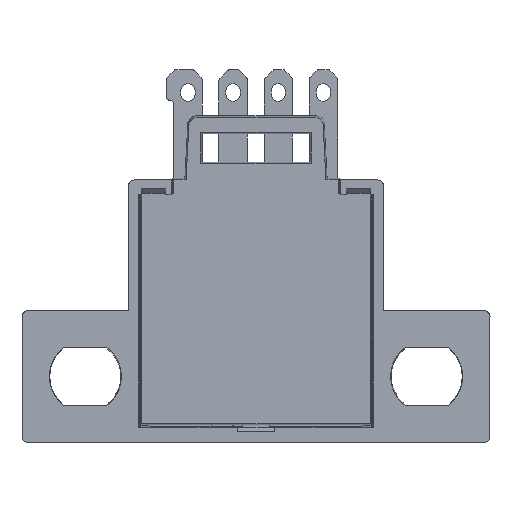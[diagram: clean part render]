
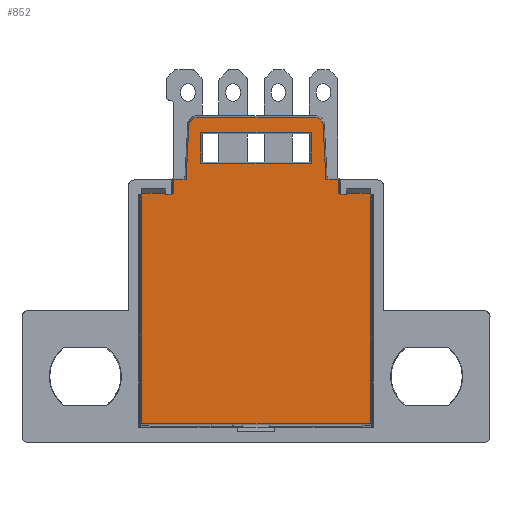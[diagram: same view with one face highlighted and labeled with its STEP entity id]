
A CAD part, front view. The second image highlights one B-rep face of the part: STEP entity #852.
In plain terms, the highlighted planar face has unit normal (0, -1, 0).
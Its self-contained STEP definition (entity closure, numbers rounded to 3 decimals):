
#197=FACE_BOUND('',#2468,.T.);
#198=FACE_BOUND('',#2469,.T.);
#414=ELLIPSE('',#11717,0.504,0.5);
#415=ELLIPSE('',#11719,0.504,0.5);
#852=ADVANCED_FACE('',(#197,#198),#1354,.F.);
#1354=PLANE('',#11728);
#2468=EDGE_LOOP('',(#4220,#4221,#4222,#4223));
#2469=EDGE_LOOP('',(#4224,#4225,#4226,#4227,#4228,#4229,#4230,#4231,#4232,
#4233,#4234,#4235,#4236,#4237));
#4220=ORIENTED_EDGE('',*,*,#7776,.F.);
#4221=ORIENTED_EDGE('',*,*,#7779,.F.);
#4222=ORIENTED_EDGE('',*,*,#7781,.F.);
#4223=ORIENTED_EDGE('',*,*,#7782,.F.);
#4224=ORIENTED_EDGE('',*,*,#7770,.F.);
#4225=ORIENTED_EDGE('',*,*,#7785,.F.);
#4226=ORIENTED_EDGE('',*,*,#7787,.F.);
#4227=ORIENTED_EDGE('',*,*,#7788,.F.);
#4228=ORIENTED_EDGE('',*,*,#7789,.F.);
#4229=ORIENTED_EDGE('',*,*,#7790,.F.);
#4230=ORIENTED_EDGE('',*,*,#7791,.F.);
#4231=ORIENTED_EDGE('',*,*,#7792,.F.);
#4232=ORIENTED_EDGE('',*,*,#7793,.F.);
#4233=ORIENTED_EDGE('',*,*,#7794,.F.);
#4234=ORIENTED_EDGE('',*,*,#7795,.F.);
#4235=ORIENTED_EDGE('',*,*,#7783,.F.);
#4236=ORIENTED_EDGE('',*,*,#7773,.F.);
#4237=ORIENTED_EDGE('',*,*,#7774,.F.);
#6484=VERTEX_POINT('',#16443);
#6485=VERTEX_POINT('',#16445);
#6486=VERTEX_POINT('',#16449);
#6487=VERTEX_POINT('',#16451);
#6488=VERTEX_POINT('',#16457);
#6489=VERTEX_POINT('',#16459);
#6490=VERTEX_POINT('',#16463);
#6491=VERTEX_POINT('',#16467);
#6492=VERTEX_POINT('',#16473);
#6493=VERTEX_POINT('',#16477);
#6494=VERTEX_POINT('',#16481);
#6495=VERTEX_POINT('',#16483);
#6496=VERTEX_POINT('',#16485);
#6497=VERTEX_POINT('',#16487);
#6498=VERTEX_POINT('',#16489);
#6499=VERTEX_POINT('',#16491);
#6500=VERTEX_POINT('',#16493);
#6501=VERTEX_POINT('',#16495);
#7770=EDGE_CURVE('',#6485,#6484,#414,.T.);
#7773=EDGE_CURVE('',#6487,#6486,#415,.T.);
#7774=EDGE_CURVE('',#6484,#6487,#9229,.T.);
#7776=EDGE_CURVE('',#6488,#6489,#9231,.T.);
#7779=EDGE_CURVE('',#6490,#6488,#9234,.T.);
#7781=EDGE_CURVE('',#6491,#6490,#9236,.T.);
#7782=EDGE_CURVE('',#6489,#6491,#9237,.T.);
#7783=EDGE_CURVE('',#6486,#6492,#9238,.T.);
#7785=EDGE_CURVE('',#6493,#6485,#9240,.T.);
#7787=EDGE_CURVE('',#6494,#6493,#9242,.T.);
#7788=EDGE_CURVE('',#6495,#6494,#9243,.T.);
#7789=EDGE_CURVE('',#6496,#6495,#9244,.T.);
#7790=EDGE_CURVE('',#6497,#6496,#9245,.T.);
#7791=EDGE_CURVE('',#6498,#6497,#9246,.T.);
#7792=EDGE_CURVE('',#6499,#6498,#9247,.T.);
#7793=EDGE_CURVE('',#6500,#6499,#9248,.T.);
#7794=EDGE_CURVE('',#6501,#6500,#9249,.T.);
#7795=EDGE_CURVE('',#6492,#6501,#9250,.T.);
#9229=LINE('',#16454,#10562);
#9231=LINE('',#16458,#10564);
#9234=LINE('',#16464,#10567);
#9236=LINE('',#16468,#10569);
#9237=LINE('',#16470,#10570);
#9238=LINE('',#16472,#10571);
#9240=LINE('',#16476,#10573);
#9242=LINE('',#16480,#10575);
#9243=LINE('',#16482,#10576);
#9244=LINE('',#16484,#10577);
#9245=LINE('',#16486,#10578);
#9246=LINE('',#16488,#10579);
#9247=LINE('',#16490,#10580);
#9248=LINE('',#16492,#10581);
#9249=LINE('',#16494,#10582);
#9250=LINE('',#16496,#10583);
#10562=VECTOR('',#13445,1.);
#10564=VECTOR('',#13449,1.);
#10567=VECTOR('',#13454,1.);
#10569=VECTOR('',#13458,1.);
#10570=VECTOR('',#13461,1.);
#10571=VECTOR('',#13464,1.);
#10573=VECTOR('',#13468,1.);
#10575=VECTOR('',#13472,1.);
#10576=VECTOR('',#13473,1.);
#10577=VECTOR('',#13474,1.);
#10578=VECTOR('',#13475,1.);
#10579=VECTOR('',#13476,1.);
#10580=VECTOR('',#13477,1.);
#10581=VECTOR('',#13478,1.);
#10582=VECTOR('',#13479,1.);
#10583=VECTOR('',#13480,1.);
#11717=AXIS2_PLACEMENT_3D('',#16446,#13435,#13436);
#11719=AXIS2_PLACEMENT_3D('',#16452,#13441,#13442);
#11728=AXIS2_PLACEMENT_3D('',#16497,#13481,#13482);
#13435=DIRECTION('',(0.,1.,0.));
#13436=DIRECTION('',(-0.688,0.,0.725));
#13441=DIRECTION('',(0.,1.,0.));
#13442=DIRECTION('',(0.688,0.,0.725));
#13445=DIRECTION('',(1.,0.,0.));
#13449=DIRECTION('',(1.,0.,0.));
#13454=DIRECTION('',(0.,0.,-1.));
#13458=DIRECTION('',(-1.,0.,0.));
#13461=DIRECTION('',(0.,0.,1.));
#13464=DIRECTION('',(0.052,0.,-0.999));
#13468=DIRECTION('',(0.052,0.,0.999));
#13472=DIRECTION('',(1.,0.,0.));
#13473=DIRECTION('',(0.,0.,1.));
#13474=DIRECTION('',(1.,0.,0.));
#13475=DIRECTION('',(0.,0.,1.));
#13476=DIRECTION('',(-1.,0.,0.));
#13477=DIRECTION('',(0.,0.,-1.));
#13478=DIRECTION('',(1.,0.,0.));
#13479=DIRECTION('',(0.,0.,-1.));
#13480=DIRECTION('',(1.,0.,0.));
#13481=DIRECTION('',(0.,1.,0.));
#13482=DIRECTION('',(-1.,0.,0.));
#16443=CARTESIAN_POINT('',(102.722,-16.675,11.627));
#16445=CARTESIAN_POINT('',(102.225,-16.675,11.155));
#16446=CARTESIAN_POINT('',(102.726,-16.675,11.125));
#16449=CARTESIAN_POINT('',(109.774,-16.675,11.155));
#16451=CARTESIAN_POINT('',(109.277,-16.675,11.627));
#16452=CARTESIAN_POINT('',(109.273,-16.675,11.125));
#16454=CARTESIAN_POINT('',(105.999,-16.675,11.627));
#16457=CARTESIAN_POINT('',(102.879,-16.675,9.027));
#16458=CARTESIAN_POINT('',(105.999,-16.675,9.027));
#16459=CARTESIAN_POINT('',(109.119,-16.675,9.027));
#16463=CARTESIAN_POINT('',(102.879,-16.675,10.767));
#16464=CARTESIAN_POINT('',(102.879,-16.675,-2.803));
#16467=CARTESIAN_POINT('',(109.119,-16.675,10.767));
#16468=CARTESIAN_POINT('',(105.999,-16.675,10.767));
#16470=CARTESIAN_POINT('',(109.119,-16.675,-2.803));
#16472=CARTESIAN_POINT('',(109.774,-16.675,11.155));
#16473=CARTESIAN_POINT('',(109.933,-16.675,8.127));
#16476=CARTESIAN_POINT('',(102.066,-16.675,8.127));
#16477=CARTESIAN_POINT('',(102.066,-16.675,8.127));
#16480=CARTESIAN_POINT('',(105.999,-16.675,8.127));
#16481=CARTESIAN_POINT('',(101.369,-16.675,8.127));
#16482=CARTESIAN_POINT('',(101.369,-16.675,-2.803));
#16483=CARTESIAN_POINT('',(101.369,-16.675,7.302));
#16484=CARTESIAN_POINT('',(105.999,-16.675,7.302));
#16485=CARTESIAN_POINT('',(99.569,-16.675,7.302));
#16486=CARTESIAN_POINT('',(99.569,-16.675,-2.803));
#16487=CARTESIAN_POINT('',(99.569,-16.675,-5.608));
#16488=CARTESIAN_POINT('',(105.999,-16.675,-5.608));
#16489=CARTESIAN_POINT('',(112.429,-16.675,-5.608));
#16490=CARTESIAN_POINT('',(112.429,-16.675,-2.803));
#16491=CARTESIAN_POINT('',(112.429,-16.675,7.302));
#16492=CARTESIAN_POINT('',(105.999,-16.675,7.302));
#16493=CARTESIAN_POINT('',(110.63,-16.675,7.302));
#16494=CARTESIAN_POINT('',(110.63,-16.675,-2.803));
#16495=CARTESIAN_POINT('',(110.63,-16.675,8.127));
#16496=CARTESIAN_POINT('',(105.999,-16.675,8.127));
#16497=CARTESIAN_POINT('',(105.999,-16.675,-2.803));
